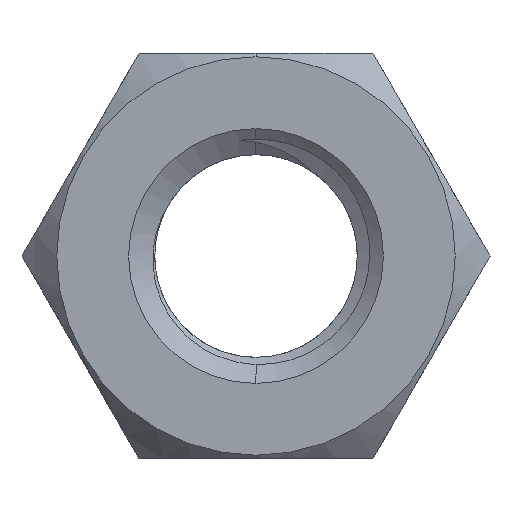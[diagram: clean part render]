
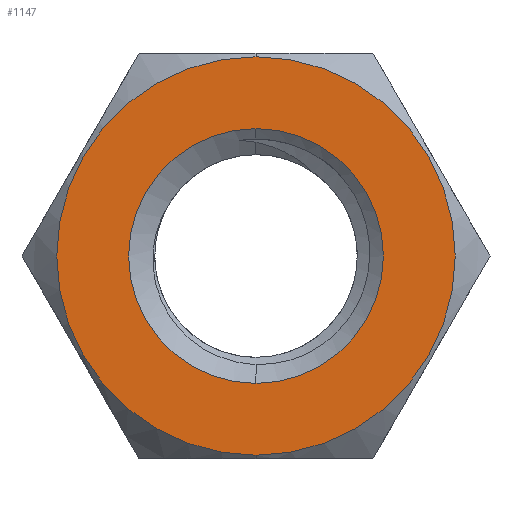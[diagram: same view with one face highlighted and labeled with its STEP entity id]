
A CAD part, front view. The second image highlights one B-rep face of the part: STEP entity #1147.
In plain terms, the highlighted planar face has unit normal (0, -1, 0).
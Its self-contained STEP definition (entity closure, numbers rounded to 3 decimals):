
#196 = AXIS2_PLACEMENT_3D ( 'NONE', #1256, #645, #1042 ) ;
#312 = CIRCLE ( 'NONE', #2283, 3.441 ) ;
#428 = EDGE_CURVE ( 'NONE', #836, #649, #312, .T. ) ;
#438 = ORIENTED_EDGE ( 'NONE', *, *, #1981, .F. ) ;
#443 = DIRECTION ( 'NONE',  ( 0., 1., 0. ) ) ;
#461 = VERTEX_POINT ( 'NONE', #1360 ) ;
#598 = CARTESIAN_POINT ( 'NONE',  ( 0., -1.75, 3.441 ) ) ;
#645 = DIRECTION ( 'NONE',  ( 0., -1., 0. ) ) ;
#648 = CIRCLE ( 'NONE', #2049, 2.2 ) ;
#649 = VERTEX_POINT ( 'NONE', #598 ) ;
#717 = EDGE_CURVE ( 'NONE', #649, #836, #2203, .T. ) ;
#836 = VERTEX_POINT ( 'NONE', #1541 ) ;
#913 = DIRECTION ( 'NONE',  ( 0., 0., -1. ) ) ;
#980 = FACE_BOUND ( 'NONE', #1268, .T. ) ;
#1042 = DIRECTION ( 'NONE',  ( 0., 0., -1. ) ) ;
#1147 = ADVANCED_FACE ( 'NONE', ( #980, #1932 ), #2259, .F. ) ;
#1178 = ORIENTED_EDGE ( 'NONE', *, *, #1682, .F. ) ;
#1256 = CARTESIAN_POINT ( 'NONE',  ( 0., -1.75, 0. ) ) ;
#1268 = EDGE_LOOP ( 'NONE', ( #1178, #438 ) ) ;
#1310 = VERTEX_POINT ( 'NONE', #1942 ) ;
#1351 = AXIS2_PLACEMENT_3D ( 'NONE', #1921, #443, #1520 ) ;
#1360 = CARTESIAN_POINT ( 'NONE',  ( 0., -1.75, 2.2 ) ) ;
#1515 = ORIENTED_EDGE ( 'NONE', *, *, #717, .T. ) ;
#1520 = DIRECTION ( 'NONE',  ( 0., 0., 1. ) ) ;
#1541 = CARTESIAN_POINT ( 'NONE',  ( 0., -1.75, -3.441 ) ) ;
#1618 = CIRCLE ( 'NONE', #196, 2.2 ) ;
#1628 = DIRECTION ( 'NONE',  ( 0., -1., 0. ) ) ;
#1662 = AXIS2_PLACEMENT_3D ( 'NONE', #2038, #1694, #913 ) ;
#1672 = ORIENTED_EDGE ( 'NONE', *, *, #428, .T. ) ;
#1682 = EDGE_CURVE ( 'NONE', #461, #1310, #648, .T. ) ;
#1694 = DIRECTION ( 'NONE',  ( 0., -1., 0. ) ) ;
#1857 = CARTESIAN_POINT ( 'NONE',  ( 0., -1.75, 0. ) ) ;
#1921 = CARTESIAN_POINT ( 'NONE',  ( 0., -1.75, 0. ) ) ;
#1932 = FACE_OUTER_BOUND ( 'NONE', #2193, .T. ) ;
#1942 = CARTESIAN_POINT ( 'NONE',  ( 0., -1.75, -2.2 ) ) ;
#1981 = EDGE_CURVE ( 'NONE', #1310, #461, #1618, .T. ) ;
#2026 = CARTESIAN_POINT ( 'NONE',  ( 0., -1.75, 0. ) ) ;
#2038 = CARTESIAN_POINT ( 'NONE',  ( 0., -1.75, 0. ) ) ;
#2049 = AXIS2_PLACEMENT_3D ( 'NONE', #2026, #2398, #2239 ) ;
#2193 = EDGE_LOOP ( 'NONE', ( #1515, #1672 ) ) ;
#2203 = CIRCLE ( 'NONE', #1662, 3.441 ) ;
#2239 = DIRECTION ( 'NONE',  ( 0., 0., -1. ) ) ;
#2259 = PLANE ( 'NONE',  #1351 ) ;
#2283 = AXIS2_PLACEMENT_3D ( 'NONE', #1857, #1628, #2383 ) ;
#2383 = DIRECTION ( 'NONE',  ( 0., 0., -1. ) ) ;
#2398 = DIRECTION ( 'NONE',  ( 0., -1., 0. ) ) ;
